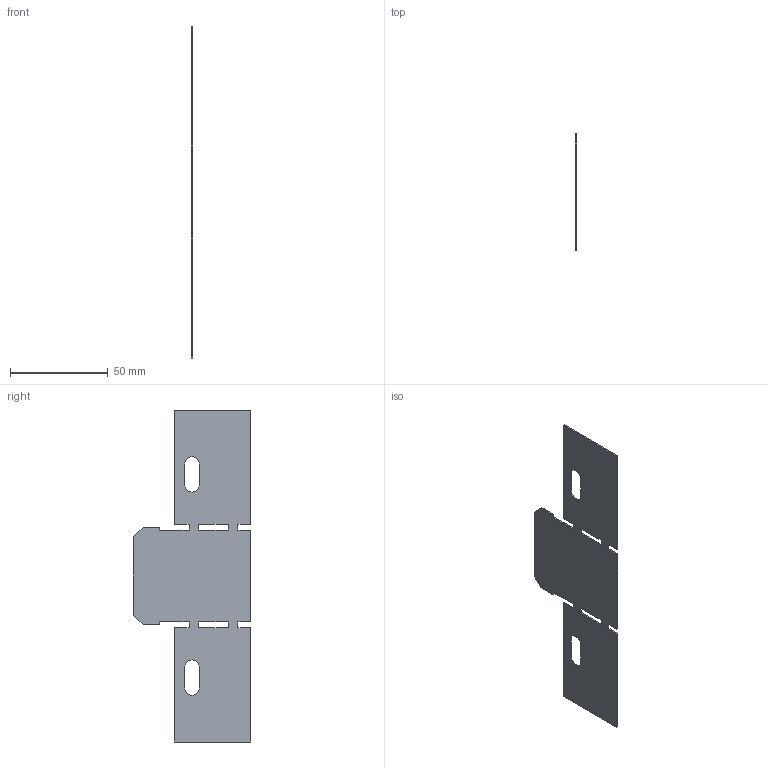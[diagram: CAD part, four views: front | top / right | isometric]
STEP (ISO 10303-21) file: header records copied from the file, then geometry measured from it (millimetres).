
FILE_DESCRIPTION (( 'STEP AP203' ), '1' );
FILE_NAME ('REER 50x60.STEP', '2020-02-12T08:27:03', ( '' ), ( '' ), 'SwSTEP 2.0', 'SolidWorks 2019', '' );
FILE_SCHEMA (( 'CONFIG_CONTROL_DESIGN' ));
Length unit declared in the file: millimetre
Products named in the file (1): REER 50x60
Bounding box: 0.7 x 60 x 170 mm (x, y, z)
Volume: 5048.9 mm3; surface area: 14899.4 mm2
Topology: 1 solids, 1 shells, 46 faces, 132 edges, 88 vertices
Faces by surface type: plane 40, cylinder 6
Entity records: 1581 total; most frequent: CARTESIAN_POINT 267, ORIENTED_EDGE 264, DIRECTION 238, EDGE_CURVE 132, VECTOR 120, LINE 120, VERTEX_POINT 88, AXIS2_PLACEMENT_3D 59
